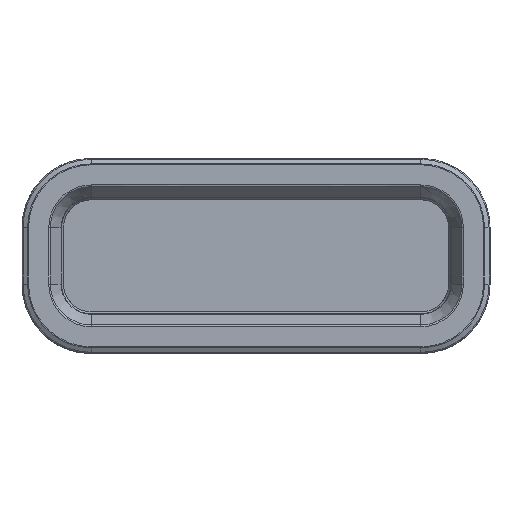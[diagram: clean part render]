
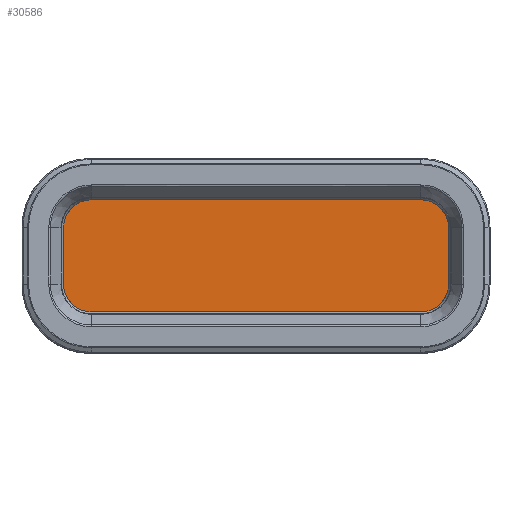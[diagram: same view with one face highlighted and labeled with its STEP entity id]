
A CAD part, top view. The second image highlights one B-rep face of the part: STEP entity #30586.
In plain terms, the highlighted planar face has unit normal (0, 0, 1) as drawn and (0, 0, -1) by its records, which use the part's own axes.
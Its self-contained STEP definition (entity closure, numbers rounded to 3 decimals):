
#30291=DIRECTION('',(1.,0.,0.));
#30292=VECTOR('',#30291,338.);
#30293=CARTESIAN_POINT('',(37.,0.,0.));
#30294=LINE('',#30293,#30292);
#30295=CARTESIAN_POINT('',(375.,37.,0.));
#30296=DIRECTION('',(0.,0.,1.));
#30297=DIRECTION('',(0.,-1.,0.));
#30298=AXIS2_PLACEMENT_3D('',#30295,#30296,#30297);
#30300=DIRECTION('',(0.,1.,0.));
#30301=VECTOR('',#30300,58.);
#30302=CARTESIAN_POINT('',(412.,37.,0.));
#30303=LINE('',#30302,#30301);
#30304=CARTESIAN_POINT('',(375.,95.,0.));
#30305=DIRECTION('',(0.,0.,1.));
#30306=DIRECTION('',(1.,0.,0.));
#30307=AXIS2_PLACEMENT_3D('',#30304,#30305,#30306);
#30309=DIRECTION('',(-1.,0.,0.));
#30310=VECTOR('',#30309,338.);
#30311=CARTESIAN_POINT('',(375.,132.,0.));
#30312=LINE('',#30311,#30310);
#30313=CARTESIAN_POINT('',(37.,95.,0.));
#30314=DIRECTION('',(0.,0.,1.));
#30315=DIRECTION('',(0.,1.,0.));
#30316=AXIS2_PLACEMENT_3D('',#30313,#30314,#30315);
#30318=DIRECTION('',(0.,-1.,0.));
#30319=VECTOR('',#30318,58.);
#30320=CARTESIAN_POINT('',(0.,95.,0.));
#30321=LINE('',#30320,#30319);
#30322=CARTESIAN_POINT('',(37.,37.,0.));
#30323=DIRECTION('',(0.,0.,1.));
#30324=DIRECTION('',(-1.,0.,0.));
#30325=AXIS2_PLACEMENT_3D('',#30322,#30323,#30324);
#30499=CARTESIAN_POINT('',(37.,0.,0.));
#30500=CARTESIAN_POINT('',(375.,0.,0.));
#30501=VERTEX_POINT('',#30499);
#30502=VERTEX_POINT('',#30500);
#30503=CARTESIAN_POINT('',(412.,37.,0.));
#30504=VERTEX_POINT('',#30503);
#30505=CARTESIAN_POINT('',(412.,95.,0.));
#30506=VERTEX_POINT('',#30505);
#30507=CARTESIAN_POINT('',(375.,132.,0.));
#30508=VERTEX_POINT('',#30507);
#30509=CARTESIAN_POINT('',(37.,132.,0.));
#30510=VERTEX_POINT('',#30509);
#30511=CARTESIAN_POINT('',(0.,95.,0.));
#30512=VERTEX_POINT('',#30511);
#30513=CARTESIAN_POINT('',(0.,37.,0.));
#30514=VERTEX_POINT('',#30513);
#30563=CARTESIAN_POINT('',(0.,0.,0.));
#30564=DIRECTION('',(0.,0.,1.));
#30565=DIRECTION('',(1.,0.,0.));
#30566=AXIS2_PLACEMENT_3D('',#30563,#30564,#30565);
#30567=PLANE('',#30566);
#30569=ORIENTED_EDGE('',*,*,#30568,.T.);
#30571=ORIENTED_EDGE('',*,*,#30570,.T.);
#30573=ORIENTED_EDGE('',*,*,#30572,.T.);
#30575=ORIENTED_EDGE('',*,*,#30574,.T.);
#30577=ORIENTED_EDGE('',*,*,#30576,.T.);
#30579=ORIENTED_EDGE('',*,*,#30578,.T.);
#30581=ORIENTED_EDGE('',*,*,#30580,.T.);
#30583=ORIENTED_EDGE('',*,*,#30582,.T.);
#30584=EDGE_LOOP('',(#30569,#30571,#30573,#30575,#30577,#30579,#30581,#30583));
#30585=FACE_OUTER_BOUND('',#30584,.F.);
#30586=ADVANCED_FACE('',(#30585),#30567,.F.);
#30299=CIRCLE('',#30298,37.);
#30308=CIRCLE('',#30307,37.);
#30317=CIRCLE('',#30316,37.);
#30326=CIRCLE('',#30325,37.);
#30568=EDGE_CURVE('',#30501,#30502,#30294,.T.);
#30570=EDGE_CURVE('',#30502,#30504,#30299,.T.);
#30572=EDGE_CURVE('',#30504,#30506,#30303,.T.);
#30574=EDGE_CURVE('',#30506,#30508,#30308,.T.);
#30576=EDGE_CURVE('',#30508,#30510,#30312,.T.);
#30578=EDGE_CURVE('',#30510,#30512,#30317,.T.);
#30580=EDGE_CURVE('',#30512,#30514,#30321,.T.);
#30582=EDGE_CURVE('',#30514,#30501,#30326,.T.);
